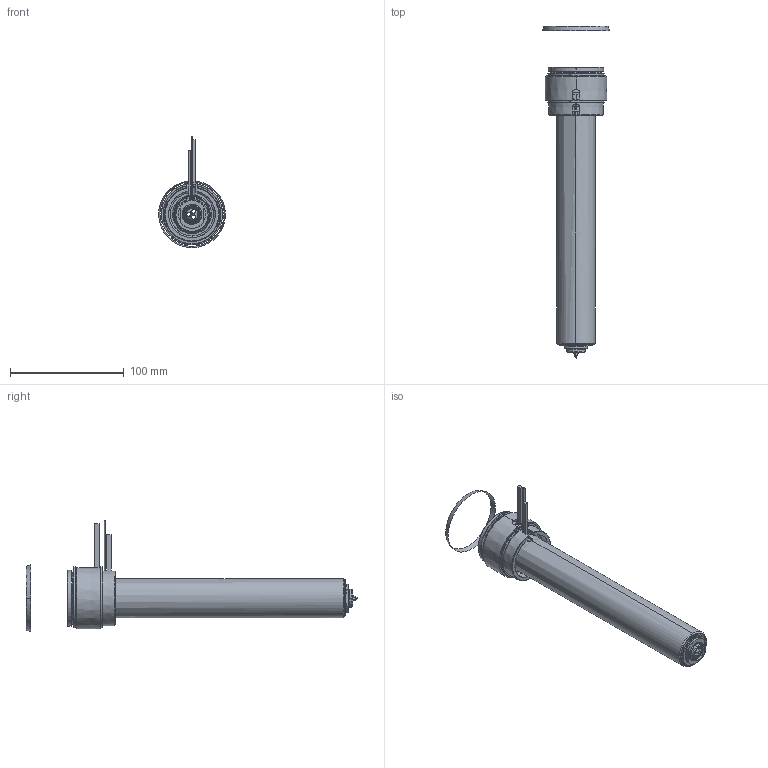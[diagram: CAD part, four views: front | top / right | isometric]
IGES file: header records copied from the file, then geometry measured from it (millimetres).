
Start section: SolidWorks IGES file using analytic representation for surfaces
Global section: file name: C:\Documents and Settings\ws-20\Desktop\TEM\UGEP5505-S-A-0 [Øf-0.80 ØC-12].IGS; native system: SolidWorks 2012; preprocessor: SolidWorks 2012; author: ws-20; date: 120427.080632; units: millimetre
Bounding box: 58.79 x 292.24 x 98.01 mm (x, y, z)
Surface area: 106364.1 mm2 (no closed solid volume)
Topology: 0 solids, 0 shells, 178 faces, 3606 edges, 3606 vertices
Faces by surface type: revolution 115, bspline 63
